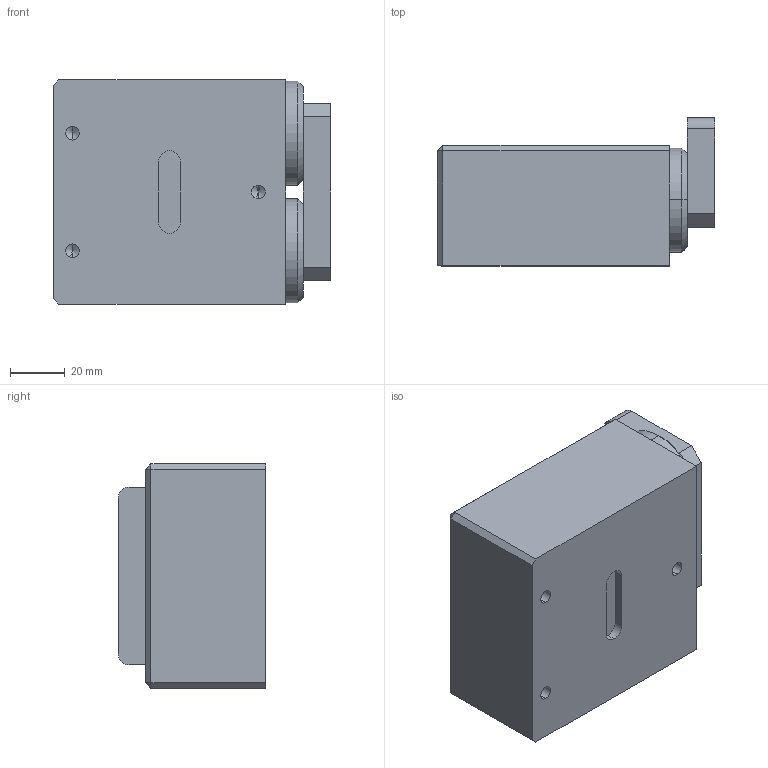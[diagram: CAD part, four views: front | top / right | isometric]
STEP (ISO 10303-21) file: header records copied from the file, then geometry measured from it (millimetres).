
FILE_DESCRIPTION (( 'STEP AP203' ), '1' );
FILE_NAME ('DBSQ-170-Eingefahren.STEP', '2015-05-19T08:57:21', ( 'test' ), ( '' ), 'SwSTEP 2.0', 'SolidWorks 2015', '' );
FILE_SCHEMA (( 'CONFIG_CONTROL_DESIGN' ));
Length unit declared in the file: millimetre
Products named in the file (1): DBSQ-170-Eingefahren
Bounding box: 101.45 x 54 x 82 mm (x, y, z)
Volume: 343145.2 mm3; surface area: 38939.6 mm2
Topology: 2 solids, 2 shells, 128 faces, 296 edges, 182 vertices
Faces by surface type: plane 61, cylinder 43, cone 24
Entity records: 3617 total; most frequent: DIRECTION 640, CARTESIAN_POINT 607, ORIENTED_EDGE 568, EDGE_CURVE 284, AXIS2_PLACEMENT_3D 231, VERTEX_POINT 182, LINE 178, VECTOR 178
